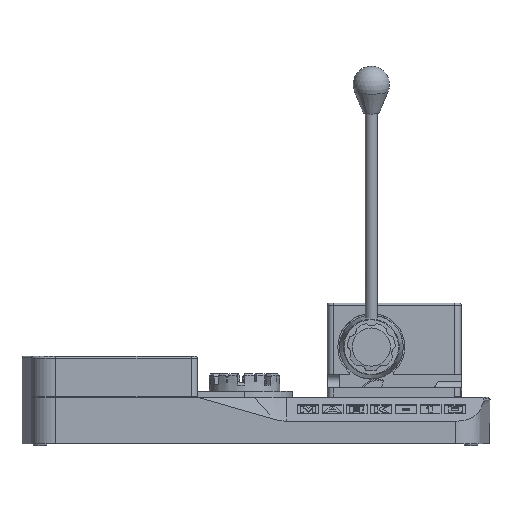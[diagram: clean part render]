
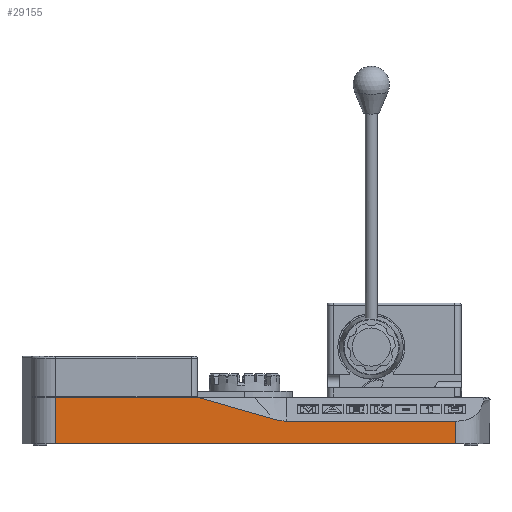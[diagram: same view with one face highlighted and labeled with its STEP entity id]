
A CAD part, front view. The second image highlights one B-rep face of the part: STEP entity #29155.
In plain terms, the highlighted planar face has unit normal (0, -1, 0).
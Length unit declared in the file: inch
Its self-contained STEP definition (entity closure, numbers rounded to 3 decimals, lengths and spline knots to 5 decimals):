
#3641=CARTESIAN_POINT('',(16.42395,-25.82382,-4.49359));
#3642=VERTEX_POINT('',#3641);
#3650=CARTESIAN_POINT('',(20.86659,-25.82382,-4.49359));
#3651=VERTEX_POINT('',#3650);
#3652=CARTESIAN_POINT('',(20.86659,-25.82382,-4.49359));
#3653=DIRECTION('',(-1.0,0.0,0.0));
#3654=VECTOR('',#3653,4.44264);
#3655=LINE('',#3652,#3654);
#3656=EDGE_CURVE('',#3651,#3642,#3655,.T.);
#28183=CARTESIAN_POINT('',(28.95577,-25.82382,-5.24359));
#28184=VERTEX_POINT('',#28183);
#28192=CARTESIAN_POINT('',(28.95577,-25.82382,-5.94359));
#28193=VERTEX_POINT('',#28192);
#28194=CARTESIAN_POINT('',(28.95577,-25.82382,-5.24359));
#28195=DIRECTION('',(0.0,0.0,-1.0));
#28196=VECTOR('',#28195,0.7);
#28197=LINE('',#28194,#28196);
#28198=EDGE_CURVE('',#28184,#28193,#28197,.T.);
#28847=CARTESIAN_POINT('',(16.42395,-25.82382,-5.94359));
#28848=VERTEX_POINT('',#28847);
#28849=CARTESIAN_POINT('',(28.95577,-25.82382,-5.94359));
#28850=DIRECTION('',(-1.0,0.0,0.0));
#28851=VECTOR('',#28850,12.53182);
#28852=LINE('',#28849,#28851);
#28853=EDGE_CURVE('',#28193,#28848,#28852,.T.);
#29013=CARTESIAN_POINT('',(23.65249,-25.82382,-5.24359));
#29014=VERTEX_POINT('',#29013);
#29021=CARTESIAN_POINT('',(28.95577,-25.82382,-5.24359));
#29022=DIRECTION('',(-1.0,0.0,0.0));
#29023=VECTOR('',#29022,5.30328);
#29024=LINE('',#29021,#29023);
#29025=EDGE_CURVE('',#28184,#29014,#29024,.T.);
#29094=CARTESIAN_POINT('',(23.24779,-25.82382,-5.18098));
#29095=VERTEX_POINT('',#29094);
#29096=CARTESIAN_POINT('',(23.65249,-25.82382,-5.24359));
#29097=CARTESIAN_POINT('',(23.46466,-25.82382,-5.24359));
#29098=CARTESIAN_POINT('',(23.24779,-25.82382,-5.18098));
#29106=(BOUNDED_CURVE()B_SPLINE_CURVE(2,(#29096,#29097,#29098),.UNSPECIFIED.,.F.,.U.)B_SPLINE_CURVE_WITH_KNOTS((3,3),(2.02985,2.66329),.UNSPECIFIED.)CURVE()GEOMETRIC_REPRESENTATION_ITEM()RATIONAL_B_SPLINE_CURVE((1.0,1.121,1.167))REPRESENTATION_ITEM(''));
#29107=EDGE_CURVE('',#29014,#29095,#29106,.T.);
#29125=CARTESIAN_POINT('',(23.24779,-25.82382,-5.18098));
#29126=DIRECTION('',(-0.961,0.0,0.277));
#29127=VECTOR('',#29126,2.47843);
#29128=LINE('',#29125,#29127);
#29129=EDGE_CURVE('',#29095,#3651,#29128,.T.);
#29136=CARTESIAN_POINT('',(15.70231,-25.82382,-5.94359));
#29137=DIRECTION('',(0.0,-1.0,0.0));
#29138=DIRECTION('',(0.0,0.0,-1.0));
#29139=AXIS2_PLACEMENT_3D('',#29136,#29137,#29138);
#29140=PLANE('',#29139);
#29141=CARTESIAN_POINT('',(16.42395,-25.82382,-5.94359));
#29142=DIRECTION('',(0.0,0.0,1.0));
#29143=VECTOR('',#29142,1.45);
#29144=LINE('',#29141,#29143);
#29145=EDGE_CURVE('',#28848,#3642,#29144,.T.);
#29146=ORIENTED_EDGE('',*,*,#29145,.F.);
#29147=ORIENTED_EDGE('',*,*,#28853,.F.);
#29148=ORIENTED_EDGE('',*,*,#28198,.F.);
#29149=ORIENTED_EDGE('',*,*,#29025,.T.);
#29150=ORIENTED_EDGE('',*,*,#29107,.T.);
#29151=ORIENTED_EDGE('',*,*,#29129,.T.);
#29152=ORIENTED_EDGE('',*,*,#3656,.T.);
#29153=EDGE_LOOP('',(#29146,#29147,#29148,#29149,#29150,#29151,#29152));
#29154=FACE_OUTER_BOUND('',#29153,.T.);
#29155=ADVANCED_FACE('',(#29154),#29140,.T.);
